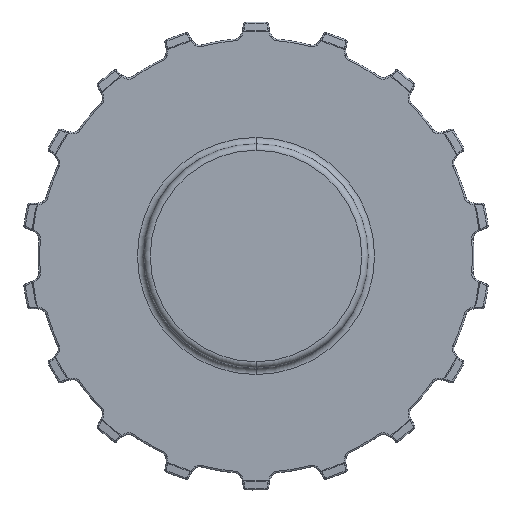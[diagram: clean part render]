
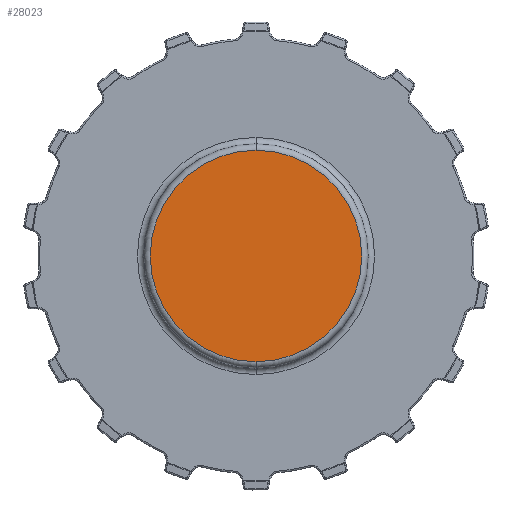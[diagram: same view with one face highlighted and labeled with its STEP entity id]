
A CAD part, left-side view. The second image highlights one B-rep face of the part: STEP entity #28023.
In plain terms, the highlighted planar face has unit normal (-1, 0, 0).
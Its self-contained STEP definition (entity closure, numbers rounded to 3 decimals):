
#6953=CARTESIAN_POINT('',(-12.5,0.,0.));
#6954=DIRECTION('',(-1.,0.,0.));
#6955=DIRECTION('',(0.,0.,1.));
#6956=AXIS2_PLACEMENT_3D('',#6953,#6954,#6955);
#6958=CARTESIAN_POINT('',(-12.5,0.,0.));
#6959=DIRECTION('',(1.,0.,0.));
#6960=DIRECTION('',(0.,0.,1.));
#6961=AXIS2_PLACEMENT_3D('',#6958,#6959,#6960);
#14414=CARTESIAN_POINT('',(-12.5,0.,33.));
#14415=VERTEX_POINT('',#14414);
#14430=CARTESIAN_POINT('',(-12.5,0.,-33.));
#14431=VERTEX_POINT('',#14430);
#28014=CARTESIAN_POINT('',(-12.5,0.,0.));
#28015=DIRECTION('',(1.,0.,0.));
#28016=DIRECTION('',(0.,0.,-1.));
#28017=AXIS2_PLACEMENT_3D('',#28014,#28015,#28016);
#28018=PLANE('',#28017);
#28019=ORIENTED_EDGE('',*,*,#27993,.F.);
#28020=ORIENTED_EDGE('',*,*,#28009,.T.);
#28021=EDGE_LOOP('',(#28019,#28020));
#28022=FACE_OUTER_BOUND('',#28021,.F.);
#28023=ADVANCED_FACE('',(#28022),#28018,.F.);
#6957=CIRCLE('',#6956,33.);
#6962=CIRCLE('',#6961,33.);
#27993=EDGE_CURVE('',#14415,#14431,#6957,.T.);
#28009=EDGE_CURVE('',#14415,#14431,#6962,.T.);
